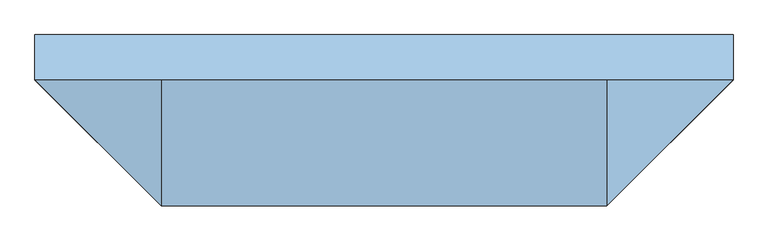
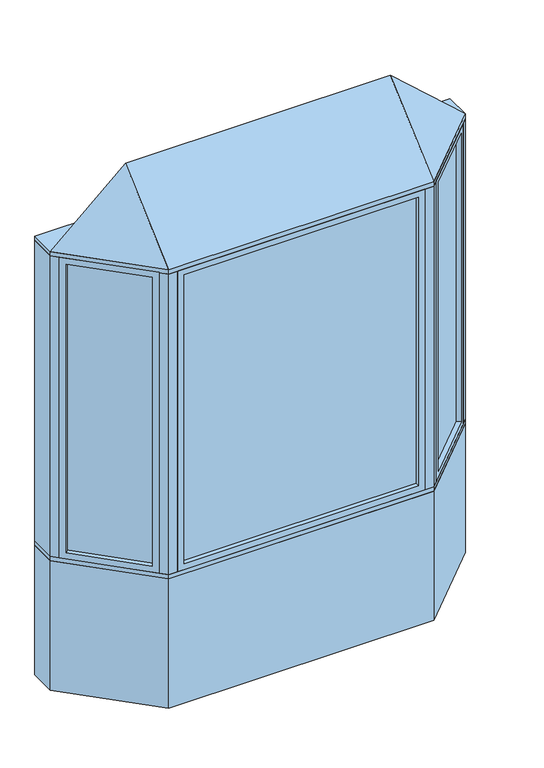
"""IFC4 building model written with IfcOpenShell, lengths in millimetres: window geometry, Pollard_Windows_Tudor Casement Bows and Bays : AML-BAY 45 AFR0618-12-500."""

from ifc_helpers import new_model, si_unit, frame, origin, origin_with_axes, place, context, project, spatial, polyline, outline, extrude, faceted_brep, source, transform, mapped, element, save


def window_84a63f59(model_context):
    return source(origin(), model_context, "Body", "SolidModel", [
        extrude(outline(polyline([(1110.5964271, -104.763169), (784.824814, -430.5347822), (781.2327115, -426.9426797), (1107.0043247, -101.1710666), (1110.5964271, -104.763169)])), frame((0.0, 0.0, 823.1628), z_axis=(0.0, 0.0, 1.0), x_axis=(1.0, 0.0, 0.0)), (0.0, 0.0, 1.0), 1753.6704),
        faceted_brep([(1101.616171, -113.7434252, 835.8628), (1119.5766833, -131.7039374, 835.8628), (1119.5766833, -131.7039374, 2564.1332), (1101.616171, -113.7434252, 2564.1332), (1107.0043247, -101.1710666, 823.1628), (1110.5964271, -104.763169, 823.1628), (1110.5964271, -104.763169, 2576.8332), (1107.0043247, -101.1710666, 2576.8332), (1080.0635563, -92.1908105, 835.8628), (1098.0240686, -110.1513227, 835.8628), (1098.0240686, -110.1513227, 2564.1332), (1080.0635563, -92.1908105, 2564.1332), (1144.9369265, -106.3436941, 799.998), (1105.4237996, -66.8305672, 799.998), (1105.4237996, -66.8305672, 2599.998), (1144.9369265, -106.3436941, 2599.998), (811.7655823, -439.5150383, 2564.1332), (793.8050701, -421.5545261, 2564.1332), (784.824814, -430.5347822, 2576.8332), (781.2327115, -426.9426797, 2576.8332), (790.2129677, -417.9624236, 2564.1332), (772.2524554, -400.0019114, 2564.1332), (746.8922121, -425.3621547, 2599.998), (786.4053391, -464.8752816, 2599.998), (811.7655823, -439.5150383, 835.8628), (793.8050701, -421.5545261, 835.8628), (784.824814, -430.5347822, 823.1628), (781.2327115, -426.9426797, 823.1628), (790.2129677, -417.9624236, 835.8628), (772.2524554, -400.0019114, 835.8628), (746.8922121, -425.3621547, 799.998), (786.4053391, -464.8752816, 799.998)], [[[0, 1, 2, 3]], [[4, 5, 6, 7]], [[8, 9, 10, 11]], [[12, 13, 14, 15]], [[3, 2, 16, 17]], [[7, 6, 18, 19]], [[11, 10, 20, 21]], [[15, 14, 22, 23]], [[17, 16, 24, 25]], [[19, 18, 26, 27]], [[21, 20, 28, 29]], [[23, 22, 30, 31]], [[25, 24, 1, 0]], [[5, 26, 18, 6], [3, 17, 25, 0]], [[27, 26, 5, 4]], [[7, 19, 27, 4], [9, 28, 20, 10]], [[29, 28, 9, 8]], [[13, 30, 22, 14], [11, 21, 29, 8]], [[31, 30, 13, 12]], [[15, 23, 31, 12], [1, 24, 16, 2]]]),
        extrude(outline(polyline([(-784.824814, -430.5347822), (-1110.5964271, -104.763169), (-1107.0043247, -101.1710666), (-781.2327115, -426.9426797), (-784.824814, -430.5347822)])), frame((0.0, 0.0, 823.1628), z_axis=(0.0, 0.0, 1.0), x_axis=(1.0, 0.0, 0.0)), (0.0, 0.0, 1.0), 1753.6704),
        faceted_brep([(-790.2129677, -417.9624236, 2564.1332), (-772.2524554, -400.0019114, 2564.1332), (-772.2524554, -400.0019114, 835.8628), (-790.2129677, -417.9624236, 835.8628), (-784.824814, -430.5347822, 2576.8332), (-781.2327115, -426.9426797, 2576.8332), (-781.2327115, -426.9426797, 823.1628), (-784.824814, -430.5347822, 823.1628), (-811.7655823, -439.5150383, 2564.1332), (-793.8050701, -421.5545261, 2564.1332), (-793.8050701, -421.5545261, 835.8628), (-811.7655823, -439.5150383, 835.8628), (-746.8922121, -425.3621547, 2599.998), (-786.4053391, -464.8752816, 2599.998), (-786.4053391, -464.8752816, 799.998), (-746.8922121, -425.3621547, 799.998), (-1080.0635563, -92.1908105, 835.8628), (-1098.0240686, -110.1513227, 835.8628), (-1107.0043247, -101.1710666, 823.1628), (-1110.5964271, -104.763169, 823.1628), (-1101.616171, -113.7434252, 835.8628), (-1119.5766833, -131.7039374, 835.8628), (-1144.9369265, -106.3436941, 799.998), (-1105.4237996, -66.8305672, 799.998), (-1080.0635563, -92.1908105, 2564.1332), (-1098.0240686, -110.1513227, 2564.1332), (-1107.0043247, -101.1710666, 2576.8332), (-1110.5964271, -104.763169, 2576.8332), (-1101.616171, -113.7434252, 2564.1332), (-1119.5766833, -131.7039374, 2564.1332), (-1144.9369265, -106.3436941, 2599.998), (-1105.4237996, -66.8305672, 2599.998)], [[[0, 1, 2, 3]], [[4, 5, 6, 7]], [[8, 9, 10, 11]], [[12, 13, 14, 15]], [[3, 2, 16, 17]], [[7, 6, 18, 19]], [[11, 10, 20, 21]], [[15, 14, 22, 23]], [[17, 16, 24, 25]], [[19, 18, 26, 27]], [[21, 20, 28, 29]], [[23, 22, 30, 31]], [[15, 23, 31, 12], [1, 24, 16, 2]], [[25, 24, 1, 0]], [[5, 26, 18, 6], [3, 17, 25, 0]], [[27, 26, 5, 4]], [[7, 19, 27, 4], [9, 28, 20, 10]], [[29, 28, 9, 8]], [[13, 30, 22, 14], [11, 21, 29, 8]], [[31, 30, 13, 12]]]),
        extrude(outline(polyline([(677.8852, -474.8306207), (-677.8852, -474.8306207), (-677.8852, -469.7506207), (677.8852, -469.7506207), (677.8852, -474.8306207)])), frame((0.0, 0.0, 823.1628), z_axis=(0.0, 0.0, 1.0), x_axis=(1.0, 0.0, 0.0)), (0.0, 0.0, 1.0), 1753.6704),
        faceted_brep([(665.1852, -474.8306207, 835.8628), (665.1852, -500.2306207, 835.8628), (665.1852, -500.2306207, 2564.1332), (665.1852, -474.8306207, 2564.1332), (677.8852, -469.7506207, 823.1628), (677.8852, -474.8306207, 823.1628), (677.8852, -474.8306207, 2576.8332), (677.8852, -469.7506207, 2576.8332), (665.1852, -444.3506207, 835.8628), (665.1852, -469.7506207, 835.8628), (665.1852, -469.7506207, 2564.1332), (665.1852, -444.3506207, 2564.1332), (701.05, -500.2306207, 799.998), (701.05, -444.3506207, 799.998), (701.05, -444.3506207, 2599.998), (701.05, -500.2306207, 2599.998), (-665.1852, -500.2306207, 2564.1332), (-665.1852, -474.8306207, 2564.1332), (-677.8852, -474.8306207, 2576.8332), (-677.8852, -469.7506207, 2576.8332), (-665.1852, -469.7506207, 2564.1332), (-665.1852, -444.3506207, 2564.1332), (-701.05, -444.3506207, 2599.998), (-701.05, -500.2306207, 2599.998), (-665.1852, -500.2306207, 835.8628), (-665.1852, -474.8306207, 835.8628), (-677.8852, -474.8306207, 823.1628), (-677.8852, -469.7506207, 823.1628), (-665.1852, -469.7506207, 835.8628), (-665.1852, -444.3506207, 835.8628), (-701.05, -444.3506207, 799.998), (-701.05, -500.2306207, 799.998)], [[[0, 1, 2, 3]], [[4, 5, 6, 7]], [[8, 9, 10, 11]], [[12, 13, 14, 15]], [[3, 2, 16, 17]], [[7, 6, 18, 19]], [[11, 10, 20, 21]], [[15, 14, 22, 23]], [[17, 16, 24, 25]], [[19, 18, 26, 27]], [[21, 20, 28, 29]], [[23, 22, 30, 31]], [[15, 23, 31, 12], [1, 24, 16, 2]], [[25, 24, 1, 0]], [[5, 26, 18, 6], [3, 17, 25, 0]], [[27, 26, 5, 4]], [[7, 19, 27, 4], [9, 28, 20, 10]], [[29, 28, 9, 8]], [[13, 30, 22, 14], [11, 21, 29, 8]], [[31, 30, 13, 12]]]),
        faceted_brep([(1176.5, -74.7806207, 2625.398), (751.05, -500.2306207, 2625.398), (-751.05, -500.2306207, 2625.398), (-1176.5, -74.7806207, 2625.398), (-751.05, -74.7806207, 3006.398), (751.05, -74.7806207, 3006.398)], [[[0, 1, 2, 3]], [[3, 2, 4]], [[2, 1, 5, 4]], [[1, 0, 5]], [[0, 3, 4, 5]]]),
        extrude(outline(polyline([(-1176.5, 77.6193793), (1176.5, 77.6193793), (1176.5, -74.7806207), (751.05, -500.2306207), (-751.05, -500.2306207), (-1176.5, -74.7806207), (-1176.5, 77.6193793)])), frame((0.0, 0.0, 2599.998), z_axis=(0.0, 0.0, 1.0), x_axis=(1.0, 0.0, 0.0)), (0.0, 0.0, 1.0), 25.4),
        extrude(outline(polyline([(-1176.5, -74.7806207), (-1176.5, 77.6193793), (-1113.3738531, 77.6193793), (-1113.3738531, -74.7806207), (-1144.9369265, -106.3436941), (-1176.5, -74.7806207)])), frame((0.0, 0.0, 799.998), z_axis=(0.0, 0.0, 1.0), x_axis=(1.0, 0.0, 0.0)), (0.0, 0.0, 1.0), 1800.0),
        extrude(outline(polyline([(1176.5, 77.6193793), (1176.5, -74.7806207), (1144.9369265, -106.3436941), (1113.3738531, -74.7806207), (1113.3738531, 77.6193793), (1176.5, 77.6193793)])), frame((0.0, 0.0, 799.998), z_axis=(0.0, 0.0, 1.0), x_axis=(1.0, 0.0, 0.0)), (0.0, 0.0, 1.0), 1800.0),
        extrude(outline(polyline([(751.05, -500.2306207), (701.05, -500.2306207), (701.05, -450.2306207), (730.3393219, -450.2306207), (751.05, -429.5199425), (786.4053391, -464.8752816), (751.05, -500.2306207)])), frame((0.0, 0.0, 799.998), z_axis=(0.0, 0.0, 1.0), x_axis=(1.0, 0.0, 0.0)), (0.0, 0.0, 1.0), 1800.0),
        extrude(outline(polyline([(-751.05, -500.2306207), (-786.4053391, -464.8752816), (-751.05, -429.5199425), (-730.3393219, -450.2306207), (-701.05, -450.2306207), (-701.05, -500.2306207), (-751.05, -500.2306207)])), frame((0.0, 0.0, 799.998), z_axis=(0.0, 0.0, 1.0), x_axis=(1.0, 0.0, 0.0)), (0.0, 0.0, 1.0), 1800.0),
        extrude(outline(polyline([(-751.05, -500.2306207), (-1176.5, -74.7806207), (-1176.5, 77.6193793), (-1113.3738531, 77.6193793), (-687.9238531, -347.8306207), (687.9238531, -347.8306207), (1113.3738531, 77.6193793), (1176.5, 77.6193793), (1176.5, -74.7806207), (751.05, -500.2306207), (-751.05, -500.2306207)])), frame((0.0, 0.0, 774.598), z_axis=(0.0, 0.0, 1.0), x_axis=(1.0, 0.0, 0.0)), (0.0, 0.0, 1.0), 25.4),
        extrude(outline(polyline([(-1176.5, -74.7806207), (-1176.5, 77.6193793), (-1113.3738531, 77.6193793), (-687.9238531, -347.8306207), (687.9238531, -347.8306207), (1113.3738531, 77.6193793), (1176.5, 77.6193793), (1176.5, -74.7806207), (751.05, -500.2306207), (-751.05, -500.2306207), (-1176.5, -74.7806207)])), origin_with_axes(), (0.0, 0.0, 1.0), 774.598),
    ])


if __name__ == "__main__":
    model = new_model("IFC4")
    model_context = context("Model", 3, world=origin())
    ifc_project = project(units=[si_unit("LENGTHUNIT", "METRE", prefix="MILLI")], contexts=[model_context])
    site = spatial("IfcSite", under=ifc_project)
    building = spatial("IfcBuilding", under=site)
    placement = place(None, origin())
    window_shape = window_84a63f59(model_context)
    element("IfcWindow", 1, ObjectType="Pollard_Windows_Tudor Casement Bows and Bays : AML-BAY 45 AFR0618-12-500", at=placement, inside=building, context=model_context, shape_type="MappedRepresentation", body=[
        mapped(window_shape, transform((0.0, 0.0, 0.0), x_axis=(1.0, 0.0, 0.0), y_axis=(0.0, 1.0, 0.0), z_axis=(0.0, 0.0, 1.0))),
    ])
    save(model, "model.ifc")
